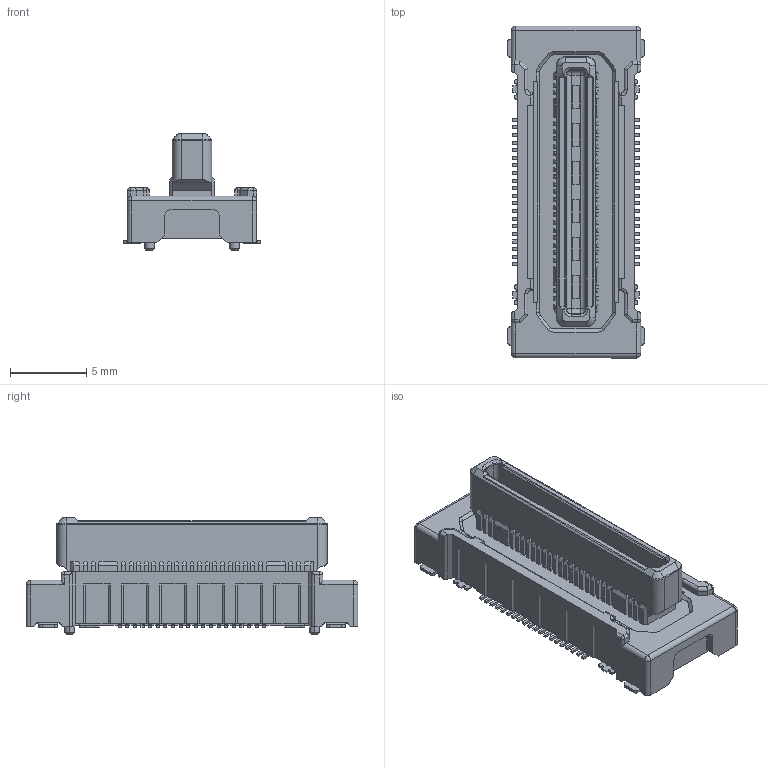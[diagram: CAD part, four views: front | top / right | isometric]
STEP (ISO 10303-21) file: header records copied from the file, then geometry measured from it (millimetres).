
FILE_DESCRIPTION (( 'STEP AP214' ), '1' );
FILE_NAME ('14_5656_052_002_829_+T.STEP', '2017-09-14T01:46:55', ( 'Asmin' ), ( '' ), 'SwSTEP 2.0', 'SolidWorks 2014', '' );
FILE_SCHEMA (( 'AUTOMOTIVE_DESIGN' ));
Length unit declared in the file: millimetre
Products named in the file (1): 14_5656_052_002_829_+T
Bounding box: 9 x 21.8 x 7.65 mm (x, y, z)
Volume: 599 mm3; surface area: 929.8 mm2
Topology: 1 solids, 1 shells, 1679 faces, 4874 edges, 3180 vertices
Faces by surface type: plane 1239, cylinder 384, bspline 32, cone 24
Entity records: 73642 total; most frequent: CARTESIAN_POINT 10627, ORIENTED_EDGE 9724, DIRECTION 8814, EDGE_CURVE 4862, LINE 4014, VECTOR 4014, VERTEX_POINT 3180, AXIS2_PLACEMENT_3D 2400
